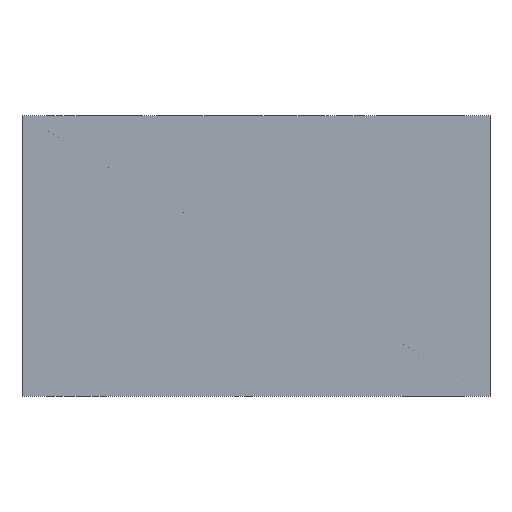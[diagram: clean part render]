
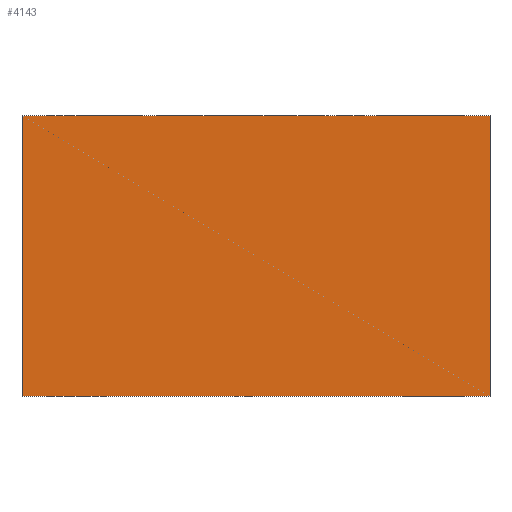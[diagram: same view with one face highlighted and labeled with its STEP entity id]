
A CAD part, front view. The second image highlights one B-rep face of the part: STEP entity #4143.
In plain terms, the highlighted planar face has unit normal (0, -1, 0).
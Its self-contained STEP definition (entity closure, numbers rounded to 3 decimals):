
#4083=CARTESIAN_POINT('',(-25.,-15.,-15.0));
#4084=VERTEX_POINT('',#4083);
#4091=CARTESIAN_POINT('',(-25.,-15.,15.0));
#4092=VERTEX_POINT('',#4091);
#4093=CARTESIAN_POINT('',(-25.,-15.,-15.0));
#4094=DIRECTION('',(0.0,0.0,1.0));
#4095=VECTOR('',#4094,30.0);
#4096=LINE('',#4093,#4095);
#4097=EDGE_CURVE('',#4084,#4092,#4096,.T.);
#4113=CARTESIAN_POINT('',(-25.,-15.,0.0));
#4114=DIRECTION('',(0.0,-1.0,0.0));
#4115=DIRECTION('',(0.0,0.0,-1.0));
#4116=AXIS2_PLACEMENT_3D('',#4113,#4114,#4115);
#4117=PLANE('',#4116);
#4118=CARTESIAN_POINT('',(25.0,-15.,-15.0));
#4119=VERTEX_POINT('',#4118);
#4120=CARTESIAN_POINT('',(-25.,-15.,-15.0));
#4121=DIRECTION('',(1.0,0.0,0.0));
#4122=VECTOR('',#4121,50.);
#4123=LINE('',#4120,#4122);
#4124=EDGE_CURVE('',#4084,#4119,#4123,.T.);
#4125=ORIENTED_EDGE('',*,*,#4124,.T.);
#4126=CARTESIAN_POINT('',(25.0,-15.,15.0));
#4127=VERTEX_POINT('',#4126);
#4128=CARTESIAN_POINT('',(25.0,-15.,15.0));
#4129=DIRECTION('',(0.0,0.0,-1.0));
#4130=VECTOR('',#4129,30.0);
#4131=LINE('',#4128,#4130);
#4132=EDGE_CURVE('',#4127,#4119,#4131,.T.);
#4133=ORIENTED_EDGE('',*,*,#4132,.F.);
#4134=CARTESIAN_POINT('',(25.0,-15.,15.0));
#4135=DIRECTION('',(-1.0,0.0,0.0));
#4136=VECTOR('',#4135,50.);
#4137=LINE('',#4134,#4136);
#4138=EDGE_CURVE('',#4127,#4092,#4137,.T.);
#4139=ORIENTED_EDGE('',*,*,#4138,.T.);
#4140=ORIENTED_EDGE('',*,*,#4097,.F.);
#4141=EDGE_LOOP('',(#4125,#4133,#4139,#4140));
#4142=FACE_OUTER_BOUND('',#4141,.T.);
#4143=ADVANCED_FACE('',(#4142),#4117,.T.);
